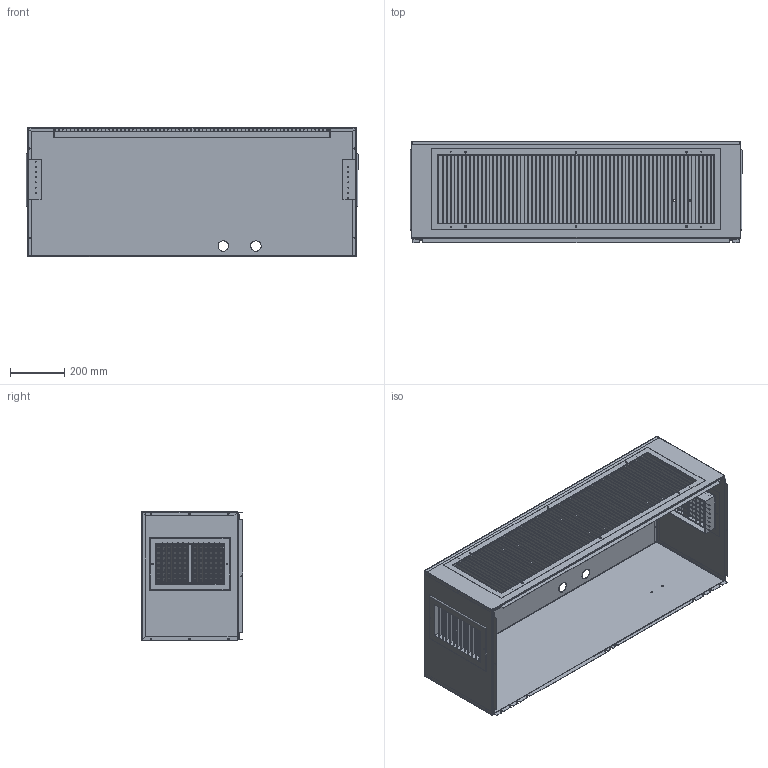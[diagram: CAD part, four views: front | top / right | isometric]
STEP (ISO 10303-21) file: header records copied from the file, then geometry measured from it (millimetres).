
FILE_DESCRIPTION (( 'STEP AP214' ), '1' );
FILE_NAME ('QPBS48-X.STEP', '2016-07-14T18:33:09', ( 'BMC' ), ( 'Bard Manufacturing Co., Inc.' ), 'SwSTEP 2.0', 'SolidWorks 2016', '' );
FILE_SCHEMA (( 'AUTOMOTIVE_DESIGN' ));
Length unit declared in the file: inch
Products named in the file (7): QPBS48-X; 114-125; 100-369_DefaultSM-FLAT-PATTERN; 100-370; 108-150; 7051-046; 7051-045
Assembly tree (7 placements, depth 2):
  QPBS48-X
    114-125
    100-369_DefaultSM-FLAT-PATTERN
    100-370
    108-150
    7051-046  x2
    7051-045
Bounding box: 1220.44 x 373.72 x 475.52 mm (x, y, z)
Surface area: 4666207.7 mm2 (no closed solid volume)
Topology: 0 solids, 46 shells, 1254 faces, 4065 edges, 2713 vertices
Faces by surface type: plane 724, cylinder 506, bspline 24
Entity records: 44381 total; most frequent: CARTESIAN_POINT 12833, DIRECTION 6615, ORIENTED_EDGE 6490, EDGE_CURVE 3428, AXIS2_PLACEMENT_3D 2321, VERTEX_POINT 2231, VECTOR 1973, LINE 1973
